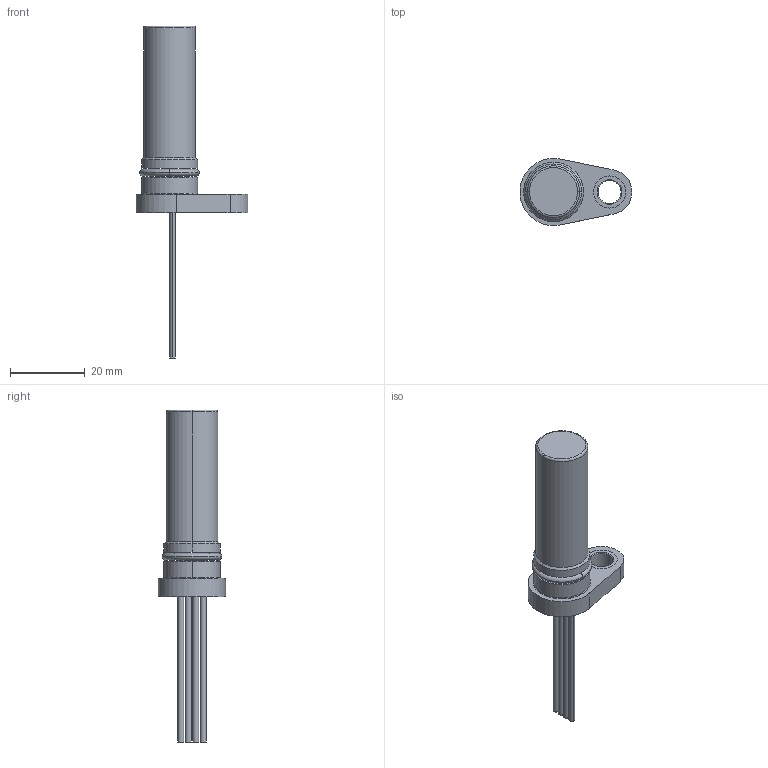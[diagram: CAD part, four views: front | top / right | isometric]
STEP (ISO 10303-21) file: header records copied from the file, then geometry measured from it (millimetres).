
FILE_DESCRIPTION (( 'STEP AP214' ), '1' );
FILE_NAME ('SSH-G01-002.STEP', '2021-05-25T07:31:13', ( '' ), ( '' ), 'SwSTEP 2.0', 'SolidWorks 2018', '' );
FILE_SCHEMA (( 'AUTOMOTIVE_DESIGN' ));
Length unit declared in the file: millimetre
Products named in the file (1): SSH-G01-002
Bounding box: 29.97 x 17.99 x 88.9 mm (x, y, z)
Surface area: 4672.5 mm2 (no closed solid volume)
Topology: 0 solids, 9 shells, 67 faces, 163 edges, 108 vertices
Faces by surface type: cylinder 35, plane 18, torus 8, cone 6
Entity records: 2751 total; most frequent: DIRECTION 403, CARTESIAN_POINT 339, ORIENTED_EDGE 284, AXIS2_PLACEMENT_3D 172, EDGE_CURVE 163, VERTEX_POINT 108, CIRCLE 104, EDGE_LOOP 77
